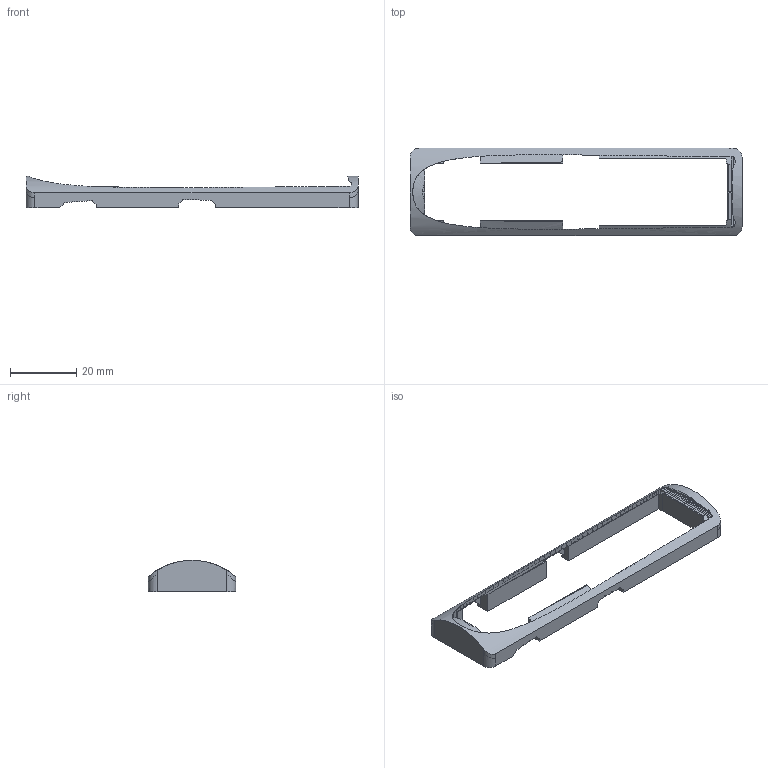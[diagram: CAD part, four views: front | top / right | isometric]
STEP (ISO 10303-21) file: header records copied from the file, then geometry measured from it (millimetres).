
FILE_DESCRIPTION(('SkyG Speed 90B - revision C6B-19 - 2026-10-15','WF-wing-window-filler'),'2;1');
FILE_NAME('WF-wing-window-filler_C6B-19','2026-10-15T15:56:16',('Author'),( 'Open CASCADE'),'Open CASCADE STEP processor 7.9','Open CASCADE 7.9' ,'Unknown');
FILE_SCHEMA(('AUTOMOTIVE_DESIGN { 1 0 10303 214 1 1 1 1 }'));
Products named in the file (1): WF-wing-window-filler C6B-19
Bounding box: 100.4 x 26.4 x 9.5 mm (x, y, z)
Volume: 4779.9 mm3; surface area: 4705 mm2
Topology: 1 solids, 1 shells, 351 faces, 994 edges, 644 vertices
Faces by surface type: plane 187, bspline 148, cylinder 16
Entity records: 43172 total; most frequent: CARTESIAN_POINT 26197, DIRECTION 2214, ORIENTED_EDGE 1988, PCURVE 1988, DEFINITIONAL_REPRESENTATION 1988, B_SPLINE_CURVE_WITH_KNOTS 1417, LINE 1086, VECTOR 1086
